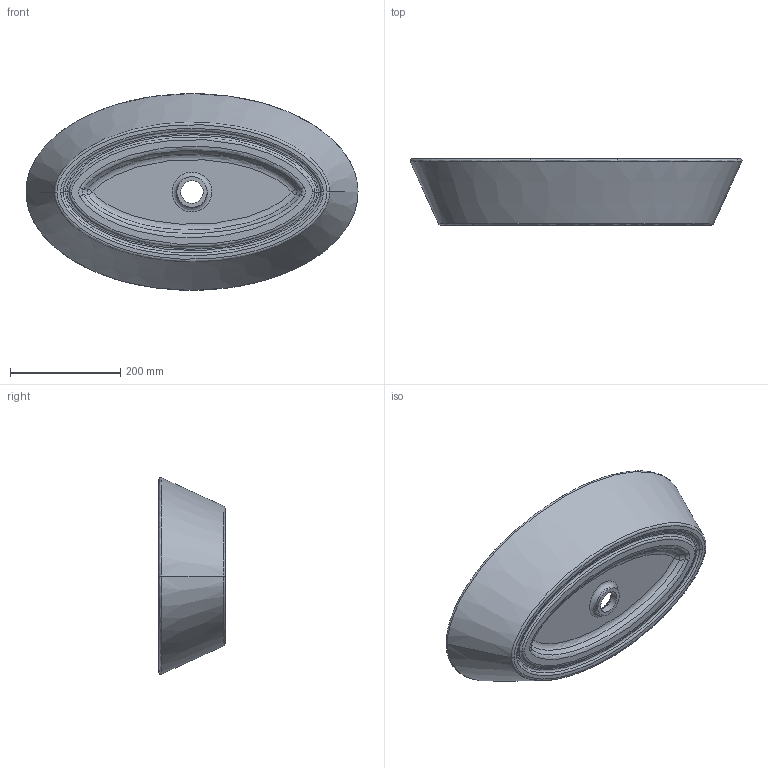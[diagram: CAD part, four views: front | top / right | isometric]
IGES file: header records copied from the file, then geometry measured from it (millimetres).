
Global section: file name: cfe67f66-e1f3-4d83-bd10-6bd21b858c3b; native system: unknown; preprocessor: unknown; author: unknown; organization: unknown; date: 20200702.115602; units: millimetre
Bounding box: 601.09 x 120 x 356.1 mm (x, y, z)
Volume: 5546507 mm3; surface area: 494808.8 mm2
Topology: 1 solids, 1 shells, 60 faces, 132 edges, 78 vertices
Faces by surface type: bspline 60
